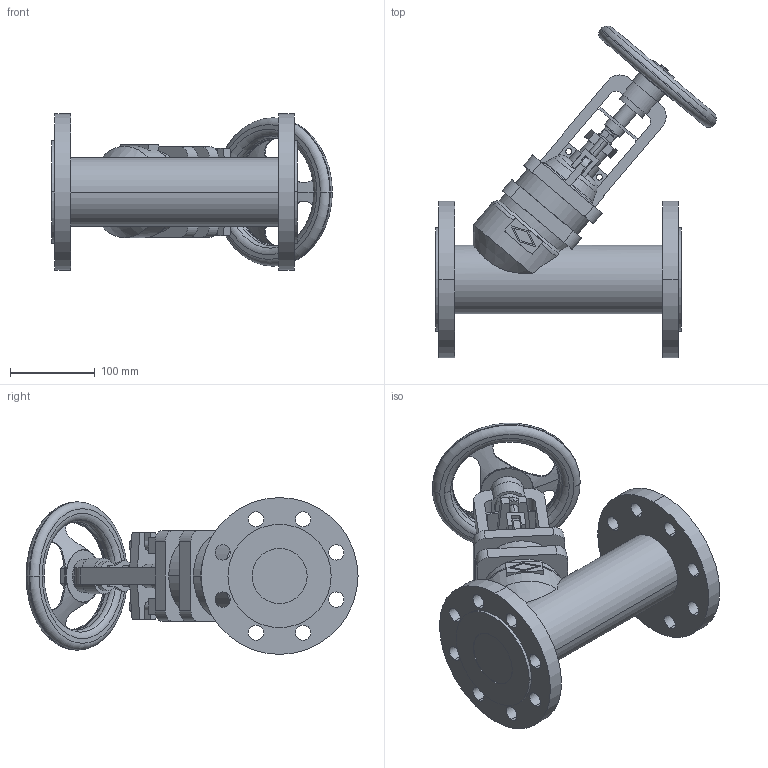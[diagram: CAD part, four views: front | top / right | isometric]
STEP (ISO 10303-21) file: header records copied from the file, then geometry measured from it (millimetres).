
FILE_DESCRIPTION(('OneSpaceDesigner STEP Export'),'2;1');
FILE_NAME('c000004396.stp','2010-05-07T 9:36:55',(''),(''),'OneSpace Designer STEP processor for AP214 (Solid Model)','OneSpace Modeling 15.50B 03-Nov-2007 (C) CoCreate Software GmbH','');
FILE_SCHEMA(('AUTOMOTIVE_DESIGN { 1 0 10303 214 1 1 1 1 }'));
Length unit declared in the file: millimetre
Products named in the file (1): 1
Bounding box: 331.18 x 391.63 x 185 mm (x, y, z)
Volume: 3747161.5 mm3; surface area: 351515 mm2
Topology: 1 solids, 1 shells, 318 faces, 867 edges, 570 vertices
Faces by surface type: plane 139, cylinder 127, torus 38, cone 14
Entity records: 13055 total; most frequent: CARTESIAN_POINT 2884, ORIENTED_EDGE 1734, DIRECTION 1374, EDGE_CURVE 867, VERTEX_POINT 570, AXIS2_PLACEMENT_3D 479, VECTOR 416, LINE 416
